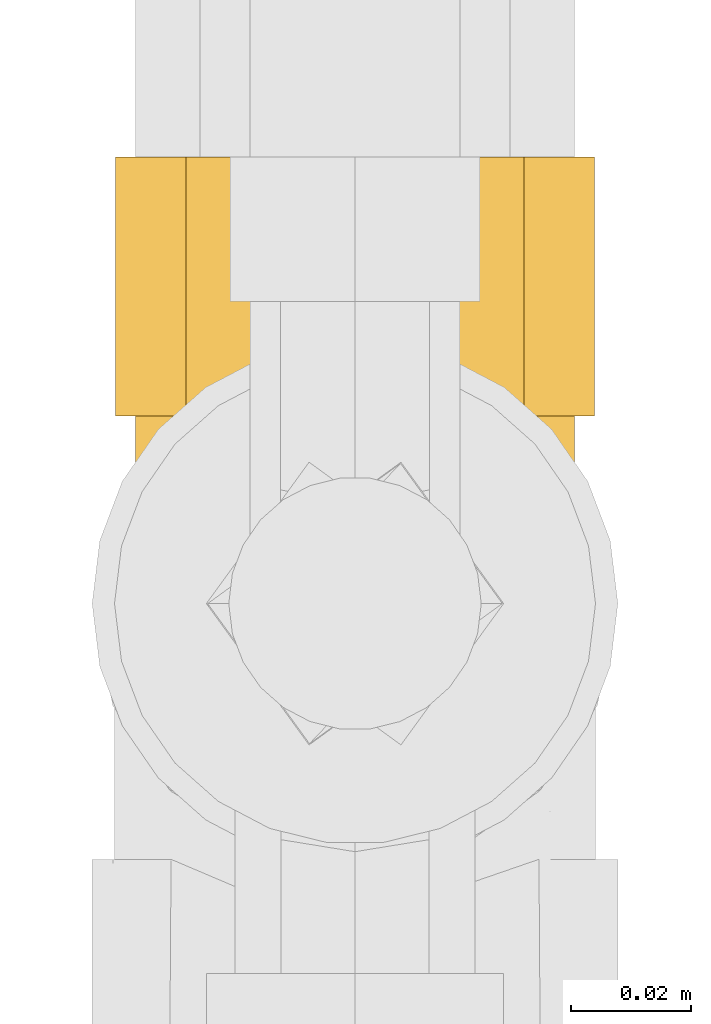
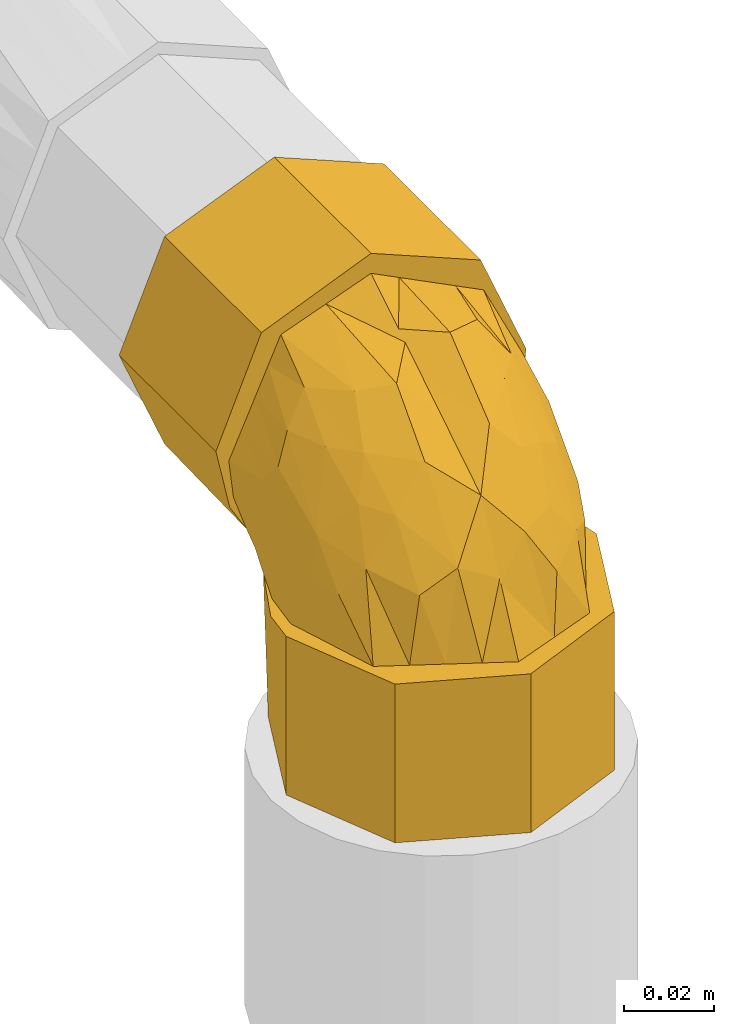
# One storey, part 255 of 652: 1 covering.
"""IFC2X3 building model written with IfcOpenShell, lengths in millimetres."""

from ifc_helpers import new_model, entity, si_unit, converted_unit, direction, frame, origin, place, context, subcontext, project, spatial, faceted_brep, material, type_object, element, save


model = new_model("IFC2X3")

# Units and contexts
model_context = context("Model", 3, precision=0.01, world=frame((0.0, 0.0, 308426.39999999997)), true_north=direction((6.123233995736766e-17, 1.0)))
plan_context = context("Plan", 3, precision=0.01, world=frame((0.0, 0.0, 308426.39999999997)), true_north=direction((6.123233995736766e-17, 1.0)))
body_context = subcontext(model_context, "Body", "Model", "MODEL_VIEW")
ifc_project = project(units=[si_unit("LENGTHUNIT", "METRE", prefix="MILLI"), si_unit("AREAUNIT", "SQUARE_METRE"), si_unit("VOLUMEUNIT", "CUBIC_METRE"), converted_unit("PLANEANGLEUNIT", "DEGREE", entity("IfcPlaneAngleMeasure", 0.017453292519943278), si_unit("PLANEANGLEUNIT", "RADIAN"), dimensions=[0, 0, 0, 0, 0, 0, 0])], contexts=[model_context, plan_context])

# Site, building, storey
site_placement = place(None, origin())
site = spatial("IfcSite", under=ifc_project, at=site_placement, Name="Default", CompositionType="ELEMENT")
building_placement = place(site_placement, origin())
building = spatial("IfcBuilding", under=site, at=building_placement, CompositionType="ELEMENT")
storey_placement = place(building_placement, frame((0.0, 0.0, 1730.6999999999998)))
storey = spatial("IfcBuildingStorey", under=building, at=storey_placement, Name="EG_Produktion_FFB", CompositionType="ELEMENT", Elevation=1730.6999999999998)

# Covering
ifc_material = material(Name="Dämmung - Armaflex-Schlauch")
covering_type = type_object("IfcCoveringType", Name="Rohrdämmung außen:Armaflex-Schlauch", PredefinedType="INSULATION")
covering_placement = place(storey_placement, frame((79540.69747546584, 51596.63308173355, 3525.7500000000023)))
element("IfcCovering", 1, at=covering_placement, inside=storey, type_object=covering_type, material=ifc_material, Name="Rohrdämmung außen:Armaflex-Schlauch", ObjectType="Rohrdämmung außen:Armaflex-Schlauch", PredefinedType="INSULATION", context=body_context, shape_type="Brep", body=[
    faceted_brep([(6.09855493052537, 72.59527223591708, 60.274884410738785), (5.6265029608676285, 72.59527223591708, 64.29230202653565), (4.895272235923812, 72.59527223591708, 70.5154710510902), (8.33730931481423, 72.59527223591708, 78.1510773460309), (11.779346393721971, 72.59527223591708, 85.78668364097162), (15.013196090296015, 72.59527223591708, 92.96045967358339), (18.247045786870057, 72.59527223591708, 100.13423570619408), (29.821159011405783, 72.59527223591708, 104.38836473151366), (41.395272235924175, 72.59527223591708, 108.64249375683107), (48.61586780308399, 72.59527223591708, 104.99034516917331), (55.83646337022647, 72.59527223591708, 101.33819658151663), (63.05705893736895, 72.59527223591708, 97.68604799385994), (70.27765450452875, 72.59527223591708, 94.03389940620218), (72.66219266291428, 72.59527223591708, 86.6719403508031), (75.27873244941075, 72.59527223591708, 78.5937057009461), (77.89527223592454, 72.59527223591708, 70.5154710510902), (77.16404151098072, 72.59527223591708, 64.29230202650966), (76.69198954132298, 72.59527223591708, 60.274884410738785), (75.03870510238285, 72.59527223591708, 55.42320232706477), (73.38542066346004, 72.59527223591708, 50.57152024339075), (76.84233005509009, 72.59527223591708, 58.211911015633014), (80.29923944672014, 72.59527223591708, 65.85230178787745), (81.19527223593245, 72.59527223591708, 74.25000000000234), (77.88147587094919, 72.59527223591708, 82.25021212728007), (75.36669718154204, 72.59527223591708, 88.3214249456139), (72.45240965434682, 72.59527223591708, 95.35713741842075), (69.53812212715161, 72.59527223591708, 102.39284989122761), (62.50240965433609, 72.59527223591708, 105.30713741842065), (55.466697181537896, 72.59527223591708, 108.2214249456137), (48.4309847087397, 72.59527223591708, 111.13571247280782), (41.395272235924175, 72.59527223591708, 114.05000000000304), (33.39506004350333, 72.59527223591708, 110.7362036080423), (27.32384729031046, 72.59527223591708, 108.22142494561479), (20.28813481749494, 72.59527223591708, 105.30713741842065), (13.252422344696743, 72.59527223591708, 102.39284989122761), (10.338134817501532, 72.59527223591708, 95.35713741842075), (7.423847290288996, 72.59527223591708, 88.3214249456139), (4.909068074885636, 72.59527223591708, 82.25021085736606), (1.5952722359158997, 72.59527223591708, 74.25000000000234), (3.364784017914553, 72.59527223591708, 66.04662283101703), (5.134295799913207, 72.59527223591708, 57.84324566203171), (9.405123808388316, 72.59527223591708, 50.57152024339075), (7.751839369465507, 72.59527223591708, 55.42320232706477), (69.53812212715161, 115.64527223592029, 46.10715010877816), (62.50240965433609, 115.64527223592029, 43.19286258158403), (55.466697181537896, 115.64527223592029, 40.278575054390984), (49.39548459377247, 115.64527223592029, 37.76379646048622), (41.395272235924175, 115.64527223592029, 34.450000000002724), (33.39506150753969, 115.64527223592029, 37.76379578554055), (27.32384729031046, 115.64527223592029, 40.278575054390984), (20.28813481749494, 115.64527223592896, 43.19286258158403), (13.252422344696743, 115.64527223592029, 46.10715010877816), (10.338134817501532, 115.64527223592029, 53.142862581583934), (7.4238472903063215, 115.64527223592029, 60.17857505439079), (4.509559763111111, 115.64527223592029, 67.21428752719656), (1.5952722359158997, 115.64527223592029, 74.25000000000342), (4.509559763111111, 115.64527223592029, 81.28571247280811), (7.423847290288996, 115.64527223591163, 88.3214249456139), (10.338134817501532, 115.64527223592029, 95.35713741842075), (13.252422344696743, 115.64527223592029, 102.39284989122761), (20.288134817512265, 115.64527223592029, 105.30713741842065), (27.32384729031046, 115.64527223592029, 108.2214249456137), (34.359559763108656, 115.64527223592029, 111.1357124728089), (41.395272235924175, 115.64527223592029, 114.05000000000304), (48.43098470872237, 115.64527223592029, 111.13571247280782), (55.466697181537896, 115.64527223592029, 108.2214249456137), (62.502409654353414, 115.64527223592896, 105.30713741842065), (69.53812212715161, 115.64527223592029, 102.39284989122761), (74.5676791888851, 115.64527223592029, 90.25042502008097), (77.8814757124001, 115.64527223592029, 82.25021251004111), (81.19527223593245, 115.64527223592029, 74.25000000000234), (78.28098470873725, 115.64527223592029, 67.21428752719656), (75.36669718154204, 115.64527223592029, 60.17857505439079), (72.4524096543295, 115.64527223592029, 53.142862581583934), (66.68337377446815, 76.44407623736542, 44.81389553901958), (41.395272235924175, 82.67731282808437, 34.450000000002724), (50.688299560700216, 81.48509653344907, 36.753135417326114), (59.981326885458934, 80.29288023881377, 39.056270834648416), (55.33481322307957, 80.88898838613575, 37.90470312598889), (16.10717069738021, 76.44407623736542, 44.81389553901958), (32.10224491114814, 81.48509653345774, 36.753135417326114), (22.809217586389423, 80.29288023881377, 39.056270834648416), (37.08137186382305, 82.12387613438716, 35.51913456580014), (1.5952722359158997, 41.39527223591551, 43.04999999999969), (4.90906857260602, 33.39506017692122, 43.04999999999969), (7.423847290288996, 27.323847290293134, 43.049999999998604), (10.338134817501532, 20.28813481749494, 43.04999999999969), (13.252422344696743, 13.25242234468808, 43.04999999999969), (20.28813481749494, 10.33813481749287, 43.04999999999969), (27.32384729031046, 7.4238472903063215, 43.04999999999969), (33.39506143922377, 4.909068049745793, 43.049999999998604), (41.395272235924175, 1.5952722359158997, 43.04999999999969), (49.39548405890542, 4.909068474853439, 43.04999999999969), (55.466697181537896, 7.4238472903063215, 43.04999999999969), (62.502409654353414, 10.33813481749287, 43.04999999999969), (69.53812212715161, 13.25242234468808, 43.04999999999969), (72.45240965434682, 20.28813481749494, 43.04999999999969), (75.36669718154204, 27.323847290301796, 43.04999999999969), (78.28098470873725, 34.359559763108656, 43.04999999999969), (81.19527223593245, 41.39527223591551, 43.04999999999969), (79.425746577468, 49.598680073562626, 43.04999999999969), (77.65622091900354, 57.802087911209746, 43.04999999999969), (73.38542066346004, 65.07375199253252, 43.04999999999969), (75.03870510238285, 60.22206990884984, 43.04999999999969), (76.69198954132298, 55.37038782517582, 43.04999999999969), (77.16404142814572, 51.352970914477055, 43.04999999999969), (77.52965683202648, 48.241386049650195, 43.04999999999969), (77.89527223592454, 45.12980118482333, 43.04999999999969), (74.55732884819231, 37.72511002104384, 43.04999999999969), (71.21938546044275, 30.32041885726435, 43.04999999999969), (67.88144207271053, 22.91572769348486, 43.049999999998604), (64.5434986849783, 15.511036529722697, 43.04999999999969), (58.756442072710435, 13.383972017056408, 43.04999999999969), (52.969385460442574, 11.256907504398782, 43.04999999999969), (41.395272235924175, 7.002778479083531, 43.04999999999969), (34.17467666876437, 10.65492706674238, 43.04999999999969), (26.954081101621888, 14.307075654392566, 43.04999999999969), (19.73348553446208, 17.959224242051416, 43.04999999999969), (12.512889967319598, 21.611372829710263, 43.04999999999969), (10.608485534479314, 27.49097991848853, 43.04999999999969), (8.704081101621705, 33.3705870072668, 43.04999999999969), (4.895272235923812, 45.12980118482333, 43.04999999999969), (5.26088763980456, 48.24138604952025, 43.04999999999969), (5.6265030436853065, 51.35297091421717, 43.04999999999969), (6.09855493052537, 55.37038782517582, 43.04999999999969), (7.751839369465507, 60.22206990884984, 43.04999999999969), (9.405123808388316, 65.07375199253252, 43.04999999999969), (5.948218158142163, 57.433378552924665, 43.04999999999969), (2.4913125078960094, 49.79300511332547, 43.04999999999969), (78.28098470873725, 34.359559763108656, 0.0), (75.36669718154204, 27.323847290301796, 0.0), (72.45240965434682, 20.28813481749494, 0.0), (69.53812212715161, 13.25242234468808, 0.0), (57.39569695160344, 8.22286515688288, 0.0), (49.39548459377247, 4.90906869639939, 0.0), (41.395272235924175, 1.5952722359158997, 0.0), (34.35955976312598, 4.509559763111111, 0.0), (27.32384729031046, 7.4238472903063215, 0.0), (20.28813481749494, 10.33813481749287, 0.0), (13.252422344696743, 13.25242234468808, 0.0), (10.338134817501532, 20.28813481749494, 0.0), (7.4238472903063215, 27.323847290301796, 0.0), (4.509559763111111, 34.359559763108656, 0.0), (1.5952722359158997, 41.39527223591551, 0.0), (4.509559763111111, 48.43098470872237, 0.0), (7.423847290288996, 55.466697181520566, 0.0), (10.338134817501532, 62.50240965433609, 0.0), (13.252422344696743, 69.53812212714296, 0.0), (20.28813481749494, 72.45240965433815, 0.0), (27.32384729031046, 75.36669718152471, 0.0), (33.395059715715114, 77.88147570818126, 0.0), (41.395272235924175, 81.19527223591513, 0.0), (49.395482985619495, 77.88147644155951, 0.0), (55.466697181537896, 75.36669718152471, 0.0), (62.502409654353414, 72.45240965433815, 0.0), (69.53812212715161, 69.53812212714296, 0.0), (72.45240965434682, 62.50240965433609, 0.0), (75.36669718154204, 55.466697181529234, 0.0), (77.8814757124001, 49.395484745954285, 0.0), (81.19527223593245, 41.39527223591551, 0.0), (41.395272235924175, 81.19527223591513, 32.96795940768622), (50.688299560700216, 78.89213681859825, 34.16017570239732), (59.981326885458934, 76.58900140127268, 35.35239199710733), (50.023072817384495, 79.05700314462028, 34.0748327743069), (66.68337377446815, 70.83137669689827, 39.20119599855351), (16.10717069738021, 70.83137669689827, 39.20119599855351), (32.10224491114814, 78.89213681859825, 34.16017570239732), (22.809217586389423, 76.58900140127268, 35.35239199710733), (32.76747165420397, 79.05700314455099, 34.07483277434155), (37.08137194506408, 80.12613769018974, 33.52139609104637), (70.65637227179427, 28.206053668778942, 58.23247908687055), (70.91823941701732, 56.30546273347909, 86.42116019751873), (74.40859480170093, 50.750288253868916, 75.59755590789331), (77.89527223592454, 61.09574012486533, 63.92252865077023), (77.07749174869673, 57.98707832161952, 71.17681219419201), (76.96796310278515, 45.95077994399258, 60.44014498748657), (68.4993551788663, 36.88337413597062, 74.83060129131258), (65.4945965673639, 51.91196638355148, 90.75092202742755), (41.395272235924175, 23.77309316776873, 78.05964753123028), (49.467746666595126, 18.356403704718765, 68.7383173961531), (49.828469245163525, 34.59504635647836, 88.0624307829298), (41.395272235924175, 60.38972746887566, 100.99678220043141), (50.83191319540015, 53.85236224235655, 100.72281157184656), (62.24753235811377, 33.57875936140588, 79.3605720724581), (77.89527223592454, 46.96057105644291, 45.44339488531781), (77.89527223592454, 48.79134092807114, 47.836789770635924), (77.89527223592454, 52.452880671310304, 52.62357954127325), (77.89527223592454, 53.112770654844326, 53.4862643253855), (77.89527223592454, 56.77431039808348, 58.27305409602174), (65.5862555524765, 23.214744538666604, 60.59226921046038), (59.267453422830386, 44.283571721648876, 91.0553375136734), (60.284144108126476, 58.15325374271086, 98.29864441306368), (58.247695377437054, 22.797790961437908, 69.7206200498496), (55.90886773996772, 30.87407236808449, 81.64353760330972), (41.395272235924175, 15.387935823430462, 60.554823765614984), (41.395272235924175, 14.820190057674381, 59.369599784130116), (41.395272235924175, 48.18418270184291, 93.35107064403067), (41.395272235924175, 42.250937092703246, 89.63440863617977), (41.395272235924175, 35.97863793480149, 85.70535908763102), (55.807401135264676, 14.94866088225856, 57.76510271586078), (73.86526147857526, 36.867223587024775, 62.477618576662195), (41.395272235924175, 57.4231046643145, 99.13845119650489), (77.89527223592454, 67.32079492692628, 67.49149366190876), (77.2391786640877, 66.95210059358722, 59.66627116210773), (76.0110802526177, 67.680848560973, 54.380516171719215), (41.395272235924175, 81.90790933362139, 33.73736290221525), (76.11562270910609, 64.0592672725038, 51.58600444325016), (71.5340814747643, 70.65705203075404, 44.98822049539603), (76.01108003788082, 61.26475634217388, 47.964422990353), (77.22455062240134, 56.00707165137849, 48.600669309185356), (5.551365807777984, 66.95210059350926, 59.6662711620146), (4.895272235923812, 67.32079492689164, 67.49149366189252), (11.256463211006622, 70.65705212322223, 44.98822014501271), (6.674922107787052, 64.05926802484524, 51.58600369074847), (4.895272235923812, 56.774310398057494, 58.27305409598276), (6.7794642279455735, 67.68084859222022, 54.38051616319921), (6.779464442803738, 61.26475635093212, 47.96442295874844), (5.565993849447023, 56.00707165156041, 48.600669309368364), (4.895272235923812, 48.79134092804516, 47.836789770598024), (4.895272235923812, 46.96057105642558, 45.44339488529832), (4.895272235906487, 52.45288067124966, 52.623579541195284), (4.895272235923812, 53.112770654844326, 53.4862643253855), (4.895272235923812, 61.09574012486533, 63.92252865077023), (7.904825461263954, 55.930703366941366, 78.0487777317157), (11.153131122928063, 57.41477332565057, 85.86627113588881), (6.9092149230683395, 39.072413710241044, 57.28853793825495), (31.851584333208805, 32.13864951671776, 85.39518385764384), (16.779704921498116, 35.612071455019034, 77.13544844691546), (9.122171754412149, 41.05493786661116, 68.41457314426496), (14.6078368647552, 28.565877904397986, 64.68516499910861), (5.8966784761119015, 49.421239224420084, 64.86670611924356), (5.88827797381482, 59.576127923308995, 73.19566844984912), (15.351617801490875, 47.7068986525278, 85.81857944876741), (22.54033754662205, 28.826720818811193, 75.96028629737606), (31.634152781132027, 17.118194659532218, 65.77892171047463), (22.719372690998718, 18.653154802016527, 60.53986394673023), (9.627121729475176, 32.13514386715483, 57.397764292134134), (24.594765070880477, 50.73714499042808, 95.84113677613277), (21.091652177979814, 40.74201153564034, 86.49440089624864), (16.75038261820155, 59.56172140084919, 94.20624665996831), (33.11251139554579, 46.88832387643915, 97.22085117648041)], [[[0, 1, 2, 3, 4, 5, 6, 7, 8, 9, 10, 11, 12, 13, 14, 15, 16, 17, 18, 19, 20, 21, 22, 23, 24, 25, 26, 27, 28, 29, 30, 31, 32, 33, 34, 35, 36, 37, 38, 39, 40, 41, 42]], [[43, 44, 45, 46, 47, 48, 49, 50, 51, 52, 53, 54, 55, 56, 57, 58, 59, 60, 61, 62, 63, 64, 65, 66, 67, 68, 69, 70, 71, 72, 73]], [[44, 43, 74]], [[75, 47, 46]], [[76, 75, 46]], [[45, 77, 78, 76]], [[44, 74, 77]], [[72, 20, 73]], [[71, 21, 72]], [[43, 19, 74]], [[77, 45, 44]], [[72, 21, 20]], [[71, 22, 21]], [[45, 76, 46]], [[71, 70, 22]], [[73, 20, 19]], [[19, 43, 73]], [[23, 22, 70, 69, 68, 67, 26, 25, 24]], [[26, 67, 66, 65, 64, 63, 30, 29, 28, 27]], [[38, 37, 36, 35, 34, 59, 58, 57, 56, 55]], [[30, 63, 62, 61, 60, 59, 34, 33, 32, 31]], [[53, 40, 39]], [[50, 79, 51]], [[39, 54, 53]], [[41, 52, 51]], [[40, 52, 41]], [[80, 49, 48]], [[49, 80, 81]], [[55, 54, 38]], [[48, 75, 82, 80]], [[38, 54, 39]], [[79, 50, 81]], [[52, 40, 53]], [[48, 47, 75]], [[50, 49, 81]], [[79, 41, 51]], [[83, 84, 85, 86, 87, 88, 89, 90, 91, 92, 93, 94, 95, 96, 97, 98, 99, 100, 101, 102, 103, 104, 105, 106, 107, 108, 109, 110, 111, 112, 113, 114, 115, 116, 117, 118, 119, 120, 121, 122, 123, 124, 125, 126, 127, 128]], [[129, 130, 131, 132, 133, 134, 135, 136, 137, 138, 139, 140, 141, 142, 143, 144, 145, 146, 147, 148, 149, 150, 151, 152, 153, 154, 155, 156, 157, 158, 159]], [[135, 134, 133, 132, 95, 94, 93, 92, 91]], [[95, 132, 131, 130, 129, 159, 99, 98, 97, 96]], [[159, 158, 157, 100]], [[101, 156, 102]], [[99, 159, 100]], [[101, 100, 157]], [[152, 151, 160]], [[102, 156, 155]], [[153, 161, 162]], [[161, 153, 152]], [[152, 160, 163, 161]], [[154, 164, 155]], [[164, 154, 162]], [[156, 101, 157]], [[154, 153, 162]], [[164, 102, 155]], [[148, 147, 165]], [[149, 166, 150]], [[166, 149, 167]], [[160, 151, 150]], [[148, 165, 167]], [[145, 127, 146]], [[144, 128, 145]], [[147, 126, 165]], [[167, 149, 148]], [[145, 128, 127]], [[144, 83, 128]], [[150, 166, 168, 169, 160]], [[144, 143, 83]], [[146, 127, 126]], [[126, 147, 146]], [[91, 90, 89, 88, 87, 139, 138, 137, 136, 135]], [[141, 140, 139, 87, 86, 85, 84, 83, 143, 142]], [[109, 170, 110]], [[13, 171, 172]], [[14, 13, 172]], [[173, 174, 175]], [[176, 171, 177]], [[15, 14, 174]], [[178, 179, 180]], [[9, 181, 182]], [[172, 175, 174]], [[13, 12, 171]], [[12, 11, 177]], [[176, 177, 183]], [[175, 107, 184, 185, 186, 187, 188, 173]], [[189, 170, 176]], [[176, 172, 171]], [[190, 191, 182]], [[11, 10, 191]], [[177, 11, 191]], [[170, 189, 110]], [[192, 183, 193]], [[179, 178, 194, 195]], [[182, 191, 10]], [[190, 182, 180]], [[177, 191, 190]], [[182, 10, 9]], [[182, 196, 180]], [[177, 190, 183]], [[177, 171, 12]], [[180, 196, 197, 198, 178]], [[113, 179, 195]], [[112, 111, 199, 113]], [[199, 111, 189]], [[195, 114, 113]], [[179, 192, 193]], [[200, 175, 172]], [[200, 108, 175]], [[172, 176, 200]], [[189, 111, 110]], [[200, 170, 109]], [[183, 189, 176]], [[108, 200, 109]], [[189, 192, 199]], [[108, 107, 175]], [[176, 170, 200]], [[193, 190, 180]], [[189, 183, 192]], [[190, 193, 183]], [[179, 193, 180]], [[181, 9, 8]], [[182, 181, 201, 196]], [[192, 179, 199]], [[179, 113, 199]], [[174, 173, 202, 15]], [[172, 174, 14]], [[173, 203, 202]], [[188, 204, 203]], [[17, 203, 18]], [[202, 17, 16, 15]], [[205, 76, 163]], [[74, 164, 162, 77]], [[163, 76, 78, 77, 162, 161]], [[206, 102, 207]], [[207, 164, 74]], [[106, 105, 104, 185, 184, 107]], [[206, 208, 102]], [[186, 185, 209, 188, 187]], [[205, 75, 76]], [[163, 160, 205]], [[206, 207, 19]], [[164, 207, 102]], [[19, 18, 204]], [[19, 207, 74]], [[202, 203, 17]], [[204, 206, 19]], [[203, 173, 188]], [[18, 203, 204]], [[102, 208, 103]], [[103, 209, 104]], [[208, 206, 188]], [[209, 103, 208]], [[209, 185, 104]], [[188, 209, 208]], [[204, 188, 206]], [[205, 160, 169]], [[210, 211, 0]], [[169, 168, 166, 167, 81, 80, 82]], [[41, 212, 213]], [[1, 0, 211, 2]], [[213, 214, 215]], [[205, 169, 82]], [[79, 165, 212]], [[126, 125, 216]], [[213, 212, 126]], [[205, 82, 75]], [[167, 165, 79, 81]], [[217, 124, 218]], [[210, 215, 214]], [[219, 218, 124, 123, 122, 121]], [[41, 79, 212]], [[212, 165, 126]], [[215, 41, 213]], [[125, 124, 217]], [[126, 216, 213]], [[125, 217, 216]], [[217, 218, 220, 221, 214]], [[215, 42, 41]], [[0, 42, 210]], [[211, 210, 222]], [[214, 213, 216]], [[210, 42, 215]], [[216, 217, 214]], [[210, 214, 222]], [[4, 223, 224]], [[121, 120, 225]], [[226, 178, 198, 197]], [[227, 228, 229]], [[230, 228, 223]], [[231, 222, 230]], [[224, 228, 232]], [[233, 234, 226]], [[3, 231, 223]], [[235, 234, 233]], [[236, 225, 120]], [[231, 2, 211, 222]], [[226, 237, 238]], [[4, 3, 223]], [[225, 221, 220, 218, 219, 121]], [[239, 224, 232]], [[6, 237, 7]], [[237, 6, 239]], [[240, 201, 7]], [[230, 225, 228]], [[226, 240, 237]], [[236, 228, 225]], [[229, 117, 235]], [[194, 234, 115]], [[226, 234, 178]], [[115, 114, 195, 194]], [[237, 239, 238]], [[240, 226, 197]], [[228, 224, 223]], [[224, 239, 5]], [[5, 239, 6]], [[5, 4, 224]], [[239, 232, 238]], [[7, 201, 181, 8]], [[7, 237, 240]], [[240, 197, 196, 201]], [[229, 118, 117]], [[194, 178, 234]], [[233, 238, 227]], [[235, 117, 116]], [[234, 235, 116]], [[229, 235, 233]], [[231, 3, 2]], [[230, 223, 231]], [[230, 222, 214, 221]], [[225, 230, 221]], [[119, 118, 236, 120]], [[236, 118, 229]], [[229, 228, 236]], [[234, 116, 115]], [[227, 238, 232]], [[226, 238, 233]], [[228, 227, 232]], [[233, 227, 229]]]),
])

save(model, "model.ifc")
